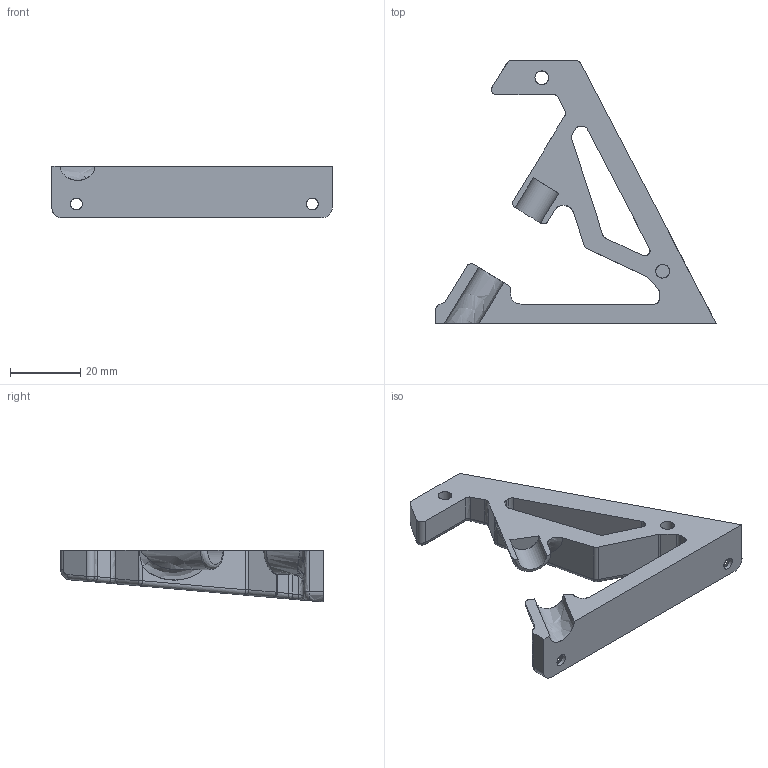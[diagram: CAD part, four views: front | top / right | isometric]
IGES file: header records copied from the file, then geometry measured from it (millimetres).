
Global section: file name: C:\Users\gehrichcr\Documents\1 Drive Backup\Practice\Inspire\V1.5\IGES\Frame Motor Foot 1 V1.5.igs; native system: NX V8.5; preprocessor: SIEMENS PLM Software NX 8.5; date: 20150608.122034; units: millimetre
Bounding box: 80 x 75.01 x 14.84 mm (x, y, z)
Surface area: 9369.8 mm2 (no closed solid volume)
Topology: 0 solids, 0 shells, 105 faces, 675 edges, 669 vertices
Faces by surface type: bspline 105
